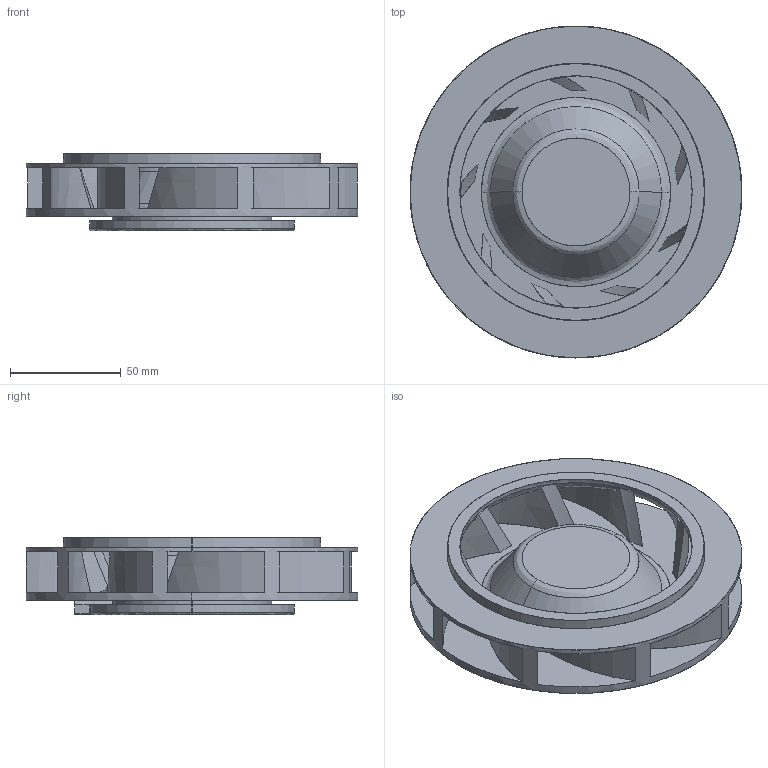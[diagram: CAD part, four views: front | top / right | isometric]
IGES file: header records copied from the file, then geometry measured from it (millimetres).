
Start section: SolidWorks IGES file using analytic representation for surfaces
Bounding box: 150 x 150 x 35 mm (x, y, z)
Surface area: 84490.5 mm2 (no closed solid volume)
Topology: 0 solids, 0 shells, 113 faces, 2430 edges, 2428 vertices
Faces by surface type: revolution 58, bspline 55
